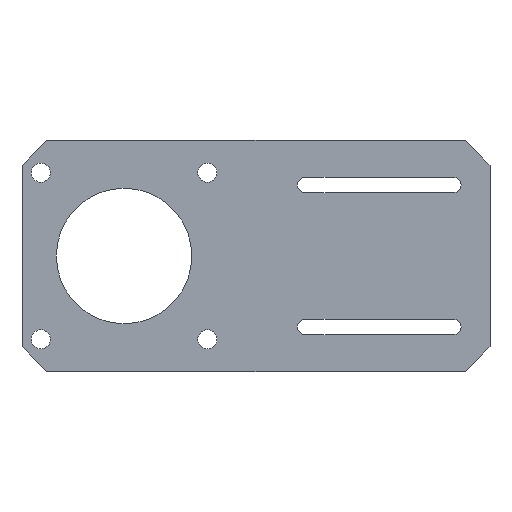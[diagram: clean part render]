
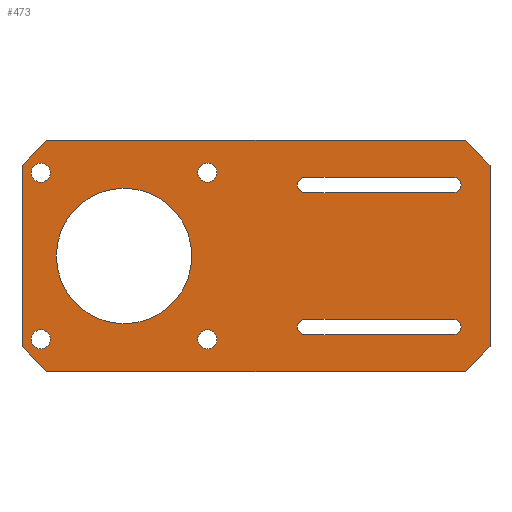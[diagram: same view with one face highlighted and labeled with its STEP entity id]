
A CAD part, front view. The second image highlights one B-rep face of the part: STEP entity #473.
In plain terms, the highlighted planar face has unit normal (0, -1, 0).
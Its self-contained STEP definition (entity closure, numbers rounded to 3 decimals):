
#22=FACE_BOUND('',#96,.T.);
#23=FACE_BOUND('',#97,.T.);
#24=FACE_BOUND('',#98,.T.);
#25=FACE_BOUND('',#99,.T.);
#26=FACE_BOUND('',#100,.T.);
#27=FACE_BOUND('',#101,.T.);
#28=FACE_BOUND('',#102,.T.);
#42=PLANE('',#537);
#65=FACE_OUTER_BOUND('',#95,.T.);
#95=EDGE_LOOP('',(#421,#422,#423,#424,#425,#426,#427,#428));
#96=EDGE_LOOP('',(#429));
#97=EDGE_LOOP('',(#430,#431,#432,#433));
#98=EDGE_LOOP('',(#434,#435,#436,#437));
#99=EDGE_LOOP('',(#438));
#100=EDGE_LOOP('',(#439));
#101=EDGE_LOOP('',(#440));
#102=EDGE_LOOP('',(#441));
#107=LINE('',#687,#152);
#111=LINE('',#697,#156);
#115=LINE('',#711,#160);
#119=LINE('',#721,#164);
#126=LINE('',#753,#171);
#130=LINE('',#760,#175);
#133=LINE('',#766,#178);
#136=LINE('',#772,#181);
#139=LINE('',#778,#184);
#142=LINE('',#784,#187);
#145=LINE('',#790,#190);
#147=LINE('',#793,#192);
#152=VECTOR('',#558,10.);
#156=VECTOR('',#570,10.);
#160=VECTOR('',#582,10.);
#164=VECTOR('',#594,10.);
#171=VECTOR('',#627,10.);
#175=VECTOR('',#633,10.);
#178=VECTOR('',#638,10.);
#181=VECTOR('',#643,10.);
#184=VECTOR('',#648,10.);
#187=VECTOR('',#653,10.);
#190=VECTOR('',#658,10.);
#192=VECTOR('',#662,10.);
#193=CIRCLE('',#498,19.1);
#196=CIRCLE('',#502,2.15);
#198=CIRCLE('',#506,2.15);
#200=CIRCLE('',#510,2.15);
#202=CIRCLE('',#514,2.15);
#203=CIRCLE('',#517,2.7);
#205=CIRCLE('',#520,2.7);
#207=CIRCLE('',#523,2.7);
#209=CIRCLE('',#526,2.7);
#211=VERTEX_POINT('',#669);
#215=VERTEX_POINT('',#678);
#216=VERTEX_POINT('',#680);
#218=VERTEX_POINT('',#686);
#220=VERTEX_POINT('',#692);
#223=VERTEX_POINT('',#702);
#224=VERTEX_POINT('',#704);
#226=VERTEX_POINT('',#710);
#228=VERTEX_POINT('',#716);
#229=VERTEX_POINT('',#723);
#231=VERTEX_POINT('',#729);
#233=VERTEX_POINT('',#735);
#235=VERTEX_POINT('',#741);
#239=VERTEX_POINT('',#750);
#240=VERTEX_POINT('',#752);
#242=VERTEX_POINT('',#758);
#244=VERTEX_POINT('',#764);
#246=VERTEX_POINT('',#770);
#248=VERTEX_POINT('',#776);
#250=VERTEX_POINT('',#782);
#252=VERTEX_POINT('',#788);
#253=EDGE_CURVE('',#211,#211,#193,.T.);
#258=EDGE_CURVE('',#216,#215,#196,.T.);
#261=EDGE_CURVE('',#218,#216,#107,.T.);
#264=EDGE_CURVE('',#220,#218,#198,.T.);
#267=EDGE_CURVE('',#215,#220,#111,.T.);
#270=EDGE_CURVE('',#224,#223,#200,.T.);
#273=EDGE_CURVE('',#226,#224,#115,.T.);
#276=EDGE_CURVE('',#228,#226,#202,.T.);
#279=EDGE_CURVE('',#223,#228,#119,.T.);
#280=EDGE_CURVE('',#229,#229,#203,.T.);
#283=EDGE_CURVE('',#231,#231,#205,.T.);
#286=EDGE_CURVE('',#233,#233,#207,.T.);
#289=EDGE_CURVE('',#235,#235,#209,.T.);
#294=EDGE_CURVE('',#240,#239,#126,.T.);
#298=EDGE_CURVE('',#239,#242,#130,.T.);
#301=EDGE_CURVE('',#242,#244,#133,.T.);
#304=EDGE_CURVE('',#244,#246,#136,.T.);
#307=EDGE_CURVE('',#246,#248,#139,.T.);
#310=EDGE_CURVE('',#248,#250,#142,.T.);
#313=EDGE_CURVE('',#250,#252,#145,.T.);
#315=EDGE_CURVE('',#252,#240,#147,.T.);
#421=ORIENTED_EDGE('',*,*,#315,.T.);
#422=ORIENTED_EDGE('',*,*,#294,.T.);
#423=ORIENTED_EDGE('',*,*,#298,.T.);
#424=ORIENTED_EDGE('',*,*,#301,.T.);
#425=ORIENTED_EDGE('',*,*,#304,.T.);
#426=ORIENTED_EDGE('',*,*,#307,.T.);
#427=ORIENTED_EDGE('',*,*,#310,.T.);
#428=ORIENTED_EDGE('',*,*,#313,.T.);
#429=ORIENTED_EDGE('',*,*,#253,.T.);
#430=ORIENTED_EDGE('',*,*,#258,.T.);
#431=ORIENTED_EDGE('',*,*,#267,.T.);
#432=ORIENTED_EDGE('',*,*,#264,.T.);
#433=ORIENTED_EDGE('',*,*,#261,.T.);
#434=ORIENTED_EDGE('',*,*,#270,.T.);
#435=ORIENTED_EDGE('',*,*,#279,.T.);
#436=ORIENTED_EDGE('',*,*,#276,.T.);
#437=ORIENTED_EDGE('',*,*,#273,.T.);
#438=ORIENTED_EDGE('',*,*,#280,.T.);
#439=ORIENTED_EDGE('',*,*,#283,.T.);
#440=ORIENTED_EDGE('',*,*,#286,.T.);
#441=ORIENTED_EDGE('',*,*,#289,.T.);
#473=ADVANCED_FACE('',(#65,#22,#23,#24,#25,#26,#27,#28),#42,.F.);
#498=AXIS2_PLACEMENT_3D('',#670,#542,#543);
#502=AXIS2_PLACEMENT_3D('',#681,#552,#553);
#506=AXIS2_PLACEMENT_3D('',#693,#564,#565);
#510=AXIS2_PLACEMENT_3D('',#705,#576,#577);
#514=AXIS2_PLACEMENT_3D('',#717,#588,#589);
#517=AXIS2_PLACEMENT_3D('',#724,#597,#598);
#520=AXIS2_PLACEMENT_3D('',#730,#604,#605);
#523=AXIS2_PLACEMENT_3D('',#736,#611,#612);
#526=AXIS2_PLACEMENT_3D('',#742,#618,#619);
#537=AXIS2_PLACEMENT_3D('',#795,#665,#666);
#542=DIRECTION('center_axis',(0.,1.,0.));
#543=DIRECTION('ref_axis',(1.,0.,0.));
#552=DIRECTION('center_axis',(0.,1.,0.));
#553=DIRECTION('ref_axis',(0.,0.,1.));
#558=DIRECTION('',(1.,0.,0.));
#564=DIRECTION('center_axis',(0.,1.,0.));
#565=DIRECTION('ref_axis',(0.,0.,-1.));
#570=DIRECTION('',(-1.,0.,0.));
#576=DIRECTION('center_axis',(0.,1.,0.));
#577=DIRECTION('ref_axis',(0.,0.,1.));
#582=DIRECTION('',(-1.,0.,0.));
#588=DIRECTION('center_axis',(0.,1.,0.));
#589=DIRECTION('ref_axis',(0.,0.,-1.));
#594=DIRECTION('',(1.,0.,0.));
#597=DIRECTION('center_axis',(0.,1.,0.));
#598=DIRECTION('ref_axis',(1.,0.,0.));
#604=DIRECTION('center_axis',(0.,1.,0.));
#605=DIRECTION('ref_axis',(1.,0.,0.));
#611=DIRECTION('center_axis',(0.,1.,0.));
#612=DIRECTION('ref_axis',(1.,0.,0.));
#618=DIRECTION('center_axis',(0.,1.,0.));
#619=DIRECTION('ref_axis',(1.,0.,0.));
#627=DIRECTION('',(0.,0.,-1.));
#633=DIRECTION('',(0.707,0.,-0.707));
#638=DIRECTION('',(1.,0.,0.));
#643=DIRECTION('',(0.707,0.,0.707));
#648=DIRECTION('',(0.,0.,1.));
#653=DIRECTION('',(-0.707,0.,0.707));
#658=DIRECTION('',(-1.,0.,0.));
#662=DIRECTION('',(-0.707,0.,-0.707));
#665=DIRECTION('center_axis',(0.,1.,0.));
#666=DIRECTION('ref_axis',(0.,0.,1.));
#669=CARTESIAN_POINT('',(-56.3,0.,0.));
#670=CARTESIAN_POINT('Origin',(-37.2,0.,0.));
#678=CARTESIAN_POINT('',(55.7,0.,-22.2));
#680=CARTESIAN_POINT('',(55.7,0.,-17.9));
#681=CARTESIAN_POINT('Origin',(55.7,0.,-20.05));
#686=CARTESIAN_POINT('',(13.8,0.,-17.9));
#687=CARTESIAN_POINT('',(27.85,0.,-17.9));
#692=CARTESIAN_POINT('',(13.8,0.,-22.2));
#693=CARTESIAN_POINT('Origin',(13.8,0.,-20.05));
#697=CARTESIAN_POINT('',(6.9,0.,-22.2));
#702=CARTESIAN_POINT('',(13.8,0.,22.2));
#704=CARTESIAN_POINT('',(13.8,0.,17.9));
#705=CARTESIAN_POINT('Origin',(13.8,0.,20.05));
#710=CARTESIAN_POINT('',(55.7,0.,17.9));
#711=CARTESIAN_POINT('',(6.9,0.,17.9));
#716=CARTESIAN_POINT('',(55.7,0.,22.2));
#717=CARTESIAN_POINT('Origin',(55.7,0.,20.05));
#721=CARTESIAN_POINT('',(27.85,0.,22.2));
#723=CARTESIAN_POINT('',(-16.4,0.,23.5));
#724=CARTESIAN_POINT('Origin',(-13.7,0.,23.5));
#729=CARTESIAN_POINT('',(-16.4,0.,-23.5));
#730=CARTESIAN_POINT('Origin',(-13.7,0.,-23.5));
#735=CARTESIAN_POINT('',(-63.4,0.,-23.5));
#736=CARTESIAN_POINT('Origin',(-60.7,0.,-23.5));
#741=CARTESIAN_POINT('',(-63.4,0.,23.5));
#742=CARTESIAN_POINT('Origin',(-60.7,0.,23.5));
#750=CARTESIAN_POINT('',(-66.,0.,-25.6));
#752=CARTESIAN_POINT('',(-66.,0.,25.6));
#753=CARTESIAN_POINT('',(-66.,0.,25.6));
#758=CARTESIAN_POINT('',(-59.,0.,-32.6));
#760=CARTESIAN_POINT('',(-66.,0.,-25.6));
#764=CARTESIAN_POINT('',(59.,0.,-32.6));
#766=CARTESIAN_POINT('',(-59.,0.,-32.6));
#770=CARTESIAN_POINT('',(66.,0.,-25.6));
#772=CARTESIAN_POINT('',(59.,0.,-32.6));
#776=CARTESIAN_POINT('',(66.,0.,25.6));
#778=CARTESIAN_POINT('',(66.,0.,-25.6));
#782=CARTESIAN_POINT('',(59.,0.,32.6));
#784=CARTESIAN_POINT('',(66.,0.,25.6));
#788=CARTESIAN_POINT('',(-59.,0.,32.6));
#790=CARTESIAN_POINT('',(59.,0.,32.6));
#793=CARTESIAN_POINT('',(-59.,0.,32.6));
#795=CARTESIAN_POINT('Origin',(0.,0.,0.));
